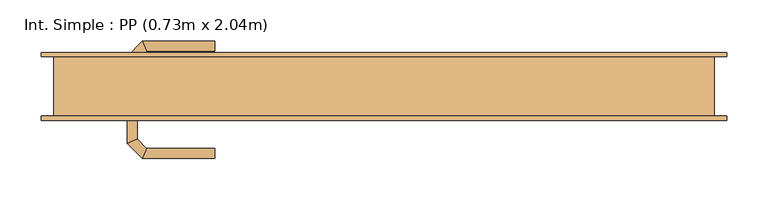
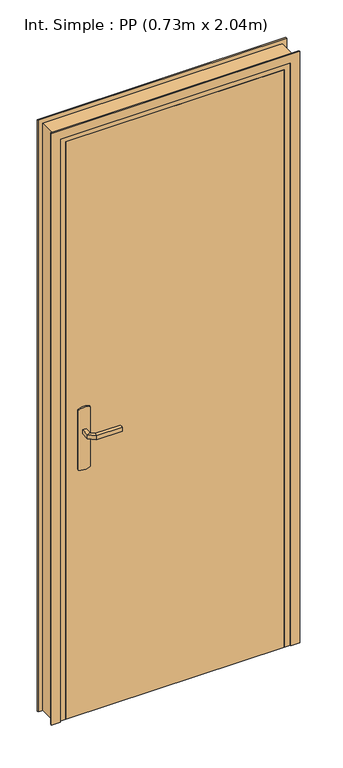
"""IFC4 building model written with IfcOpenShell, lengths in millimetres: door geometry, Int. Simple : PP (0.73m x 2.04m)."""

from ifc_helpers import new_model, si_unit, point, frame, frame_2d, origin, origin_with_axes, place, context, project, spatial, polyline, circle_curve, ellipse_curve, trimmed, segment, composite_curve, outline, extrude, faceted_brep, source, transform, mapped, element, save
from ifc_brep_helpers import plane_surface, cylinder_surface, advanced_brep


def int_simple_pp_0_73m_x_2_04m_359deddd(model_context):
    return source(origin(), model_context, "Body", "SolidModel", [
        extrude(outline(composite_curve([segment(trimmed(circle_curve(frame_2d((904.6410162, -340.0)), 40.0), [point((870.0, -360.0))], [point((870.0, -320.0))], False, "CARTESIAN"), True, "CONTINUOUS"), segment(polyline([(870.0, -320.0), (1080.0, -320.0)]), True, "CONTINUOUS"), segment(trimmed(circle_curve(frame_2d((1045.3589838, -340.0)), 40.0), [point((1080.0, -320.0))], [point((1080.0, -360.0))], False, "CARTESIAN"), True, "CONTINUOUS"), segment(polyline([(1080.0, -360.0), (870.0, -360.0)]), True, "CONTINUOUS")], self_intersect=False)), frame((0.0, -41.0, 0.0), z_axis=(0.0, 1.0, 0.0), x_axis=(0.0, 0.0, 1.0)), (0.0, 0.0, 1.0), 5.0),
        extrude(outline(composite_curve([segment(trimmed(circle_curve(frame_2d((1045.3589838, -340.0)), 40.0), [point((1080.0, -320.0))], [point((1080.0, -360.0))], False, "CARTESIAN"), True, "CONTINUOUS"), segment(polyline([(1080.0, -360.0), (870.0, -360.0)]), True, "CONTINUOUS"), segment(trimmed(circle_curve(frame_2d((904.6410162, -340.0)), 40.0), [point((870.0, -360.0))], [point((870.0, -320.0))], False, "CARTESIAN"), True, "CONTINUOUS"), segment(polyline([(870.0, -320.0), (1080.0, -320.0)]), True, "CONTINUOUS")], self_intersect=False)), frame((0.0, 4.0, 0.0), z_axis=(0.0, 1.0, 0.0), x_axis=(0.0, 0.0, 1.0)), (0.0, 0.0, 1.0), 5.0),
        advanced_brep(
        [(-346.0, -41.0, 1007.0), (-334.0, -41.0, 1007.0), (-334.0, -41.0, 993.0), (-346.0, -41.0, 993.0), (-346.0, -68.6509507, 1007.0), (-334.0, -63.680388, 1007.0), (-334.0, -63.680388, 993.0), (-346.0, -68.6509507, 993.0), (-327.62279, -87.0281607, 1007.0), (-322.6522273, -75.0281607, 1007.0), (-322.6522273, -75.0281607, 993.0), (-327.62279, -87.0281607, 993.0), (-239.9813594, -87.0281607, 1007.0), (-239.9813594, -87.0281607, 993.0), (-239.9813594, -75.0281607, 993.0), (-239.9813594, -75.0281607, 1007.0)],
        [
            (0, 1, circle_curve(frame((-340.0, -41.0, 986.9542278), z_axis=(0.0, 1.0, 0.0), x_axis=(1.0, 0.0, 0.0)), 20.9244589)),
            (1, 2),
            (2, 3, circle_curve(frame((-340.0, -41.0, 1013.0457722), z_axis=(0.0, 1.0, 0.0), x_axis=(1.0, 0.0, 0.0)), 20.9244589)),
            (3, 0),
            (0, 4),
            (4, 5, ellipse_curve(frame((-340.0, -66.1656693, 986.9542278), z_axis=(-0.3826834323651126, 0.9238795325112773, 0.0), x_axis=(0.9238795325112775, 0.38268343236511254, 0.0)), 22.6484711, 20.9244589)),
            (5, 1),
            (5, 6),
            (6, 2),
            (6, 7, ellipse_curve(frame((-340.0, -66.1656693, 1013.0457722), z_axis=(-0.3826834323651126, 0.9238795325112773, 0.0), x_axis=(0.9238795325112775, 0.38268343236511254, 0.0)), 22.6484711, 20.9244589)),
            (7, 3),
            (7, 4),
            (4, 8),
            (8, 9, ellipse_curve(frame((-325.1375086, -81.0281607, 986.9542278), z_axis=(-0.9238795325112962, 0.38268343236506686, 0.0), x_axis=(0.3826834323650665, 0.9238795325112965, 0.0)), 22.6484711, 20.9244589)),
            (9, 5),
            (9, 10),
            (10, 6),
            (10, 11, ellipse_curve(frame((-325.1375086, -81.0281607, 1013.0457722), z_axis=(-0.9238795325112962, 0.38268343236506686, 0.0), x_axis=(0.3826834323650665, 0.9238795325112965, 0.0)), 22.6484711, 20.9244589)),
            (11, 7),
            (11, 8),
            (12, 13),
            (13, 14, circle_curve(frame((-239.9813594, -81.0281607, 1013.0457722), z_axis=(1.0, 0.0, 0.0), x_axis=(0.0, 1.0, 0.0)), 20.9244589)),
            (14, 15),
            (15, 12, circle_curve(frame((-239.9813594, -81.0281607, 986.9542278), z_axis=(1.0, 0.0, 0.0), x_axis=(0.0, 1.0, 0.0)), 20.9244589)),
            (8, 12),
            (15, 9),
            (14, 10),
            (13, 11),
        ],
        [
            plane_surface(frame((-349.2195445, -41.0, 1000.0), z_axis=(0.0, 1.0, 0.0), x_axis=(0.0, 0.0, -1.0))),
            cylinder_surface(frame((-340.0, -41.0, 986.9542278), z_axis=(0.0, 1.0, 0.0), x_axis=(1.0, 0.0, 0.0)), 20.9244589),
            plane_surface(frame((-334.0, -41.0, 1007.0), z_axis=(1.0, 0.0, 0.0), x_axis=(0.0, -1.0, 0.0))),
            cylinder_surface(frame((-340.0, -41.0, 1013.0457722), z_axis=(0.0, 1.0, 0.0), x_axis=(1.0, 0.0, 0.0)), 20.9244589),
            plane_surface(frame((-346.0, -41.0, 993.0), z_axis=(-1.0, 0.0, 0.0), x_axis=(0.0, -1.0, 0.0))),
            cylinder_surface(frame((-340.0, -66.1656693, 986.9542278), z_axis=(-0.7071067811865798, 0.7071067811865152, 0.0), x_axis=(0.7071067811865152, 0.7071067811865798, 0.0)), 20.9244589),
            plane_surface(frame((-334.0, -63.680388, 1007.0), z_axis=(0.7071067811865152, 0.7071067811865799, 0.0), x_axis=(0.7071067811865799, -0.7071067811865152, 0.0))),
            cylinder_surface(frame((-340.0, -66.1656693, 1013.0457722), z_axis=(-0.7071067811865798, 0.7071067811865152, 0.0), x_axis=(0.7071067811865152, 0.7071067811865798, 0.0)), 20.9244589),
            plane_surface(frame((-346.0, -68.6509507, 993.0), z_axis=(-0.7071067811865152, -0.7071067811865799, 0.0), x_axis=(0.7071067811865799, -0.7071067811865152, 0.0))),
            plane_surface(frame((-239.9813594, -81.0281607, 990.7804555), z_axis=(1.0, 0.0, 0.0), x_axis=(0.0, 1.0, 0.0))),
            cylinder_surface(frame((-325.1375086, -81.0281607, 986.9542278), z_axis=(-1.0, 0.0, 0.0), x_axis=(0.0, 1.0, 0.0)), 20.9244589),
            plane_surface(frame((-322.6522273, -75.0281607, 1007.0), z_axis=(0.0, 1.0, 0.0), x_axis=(1.0, 0.0, 0.0))),
            cylinder_surface(frame((-325.1375086, -81.0281607, 1013.0457722), z_axis=(-1.0, 0.0, 0.0), x_axis=(0.0, 1.0, 0.0)), 20.9244589),
            plane_surface(frame((-327.62279, -87.0281607, 993.0), z_axis=(0.0, -1.0, 0.0), x_axis=(1.0, 0.0, 0.0))),
        ],
        [
            (0, [[1, 2, 3, 4]]),
            (1, [[-1, 5, 6, 7]]),
            (2, [[-2, -7, 8, 9]]),
            (3, [[-3, -9, 10, 11]]),
            (4, [[-4, -11, 12, -5]]),
            (5, [[-6, 13, 14, 15]]),
            (6, [[-8, -15, 16, 17]]),
            (7, [[-10, -17, 18, 19]]),
            (8, [[-12, -19, 20, -13]]),
            (9, [[21, 22, 23, 24]]),
            (10, [[-14, 25, -24, 26]]),
            (11, [[-16, -26, -23, 27]]),
            (12, [[-18, -27, -22, 28]]),
            (13, [[-20, -28, -21, -25]]),
        ],
    ),
        advanced_brep(
        [(-334.0, 9.0, 993.0), (-334.0, 9.0, 1007.0), (-346.0, 9.0, 1007.0), (-346.0, 9.0, 993.0), (-334.0, 31.4852045, 993.0), (-334.0, 31.4852045, 1007.0), (-346.0, 36.4557673, 1007.0), (-346.0, 36.4557673, 993.0), (-322.5147186, 42.9704859, 993.0), (-322.5147186, 42.9704859, 1007.0), (-327.4852814, 54.9704859, 1007.0), (-327.4852814, 54.9704859, 993.0), (-239.9542163, 42.9704859, 993.0), (-239.9542163, 54.9704859, 993.0), (-239.9542163, 54.9704859, 1007.0), (-239.9542163, 42.9704859, 1007.0)],
        [
            (0, 1),
            (1, 2, circle_curve(frame((-340.0, 9.0, 986.9542278), z_axis=(0.0, -1.0, 0.0), x_axis=(-1.0, 0.0, 0.0)), 20.9244589)),
            (2, 3),
            (3, 0, circle_curve(frame((-340.0, 9.0, 1013.0457722), z_axis=(0.0, -1.0, 0.0), x_axis=(-1.0, 0.0, 0.0)), 20.9244589)),
            (0, 4),
            (4, 5),
            (5, 1),
            (5, 6, ellipse_curve(frame((-340.0, 33.9704859, 986.9542278), z_axis=(-0.3826834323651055, -0.9238795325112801, 0.0), x_axis=(0.9238795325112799, -0.3826834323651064, 0.0)), 22.6484711, 20.9244589)),
            (6, 2),
            (6, 7),
            (7, 3),
            (7, 4, ellipse_curve(frame((-340.0, 33.9704859, 1013.0457722), z_axis=(-0.3826834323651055, -0.9238795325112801, 0.0), x_axis=(0.9238795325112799, -0.3826834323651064, 0.0)), 22.6484711, 20.9244589)),
            (4, 8),
            (8, 9),
            (9, 5),
            (9, 10, ellipse_curve(frame((-325.0, 48.9704859, 986.9542278), z_axis=(-0.9238795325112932, -0.382683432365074, 0.0), x_axis=(0.3826834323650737, -0.9238795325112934, 0.0)), 22.6484711, 20.9244589)),
            (10, 6),
            (10, 11),
            (11, 7),
            (11, 8, ellipse_curve(frame((-325.0, 48.9704859, 1013.0457722), z_axis=(-0.9238795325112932, -0.382683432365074, 0.0), x_axis=(0.3826834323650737, -0.9238795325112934, 0.0)), 22.6484711, 20.9244589)),
            (12, 13, circle_curve(frame((-239.9542163, 48.9704859, 1013.0457722), z_axis=(1.0, 0.0, 0.0), x_axis=(0.0, 1.0, 0.0)), 20.9244589)),
            (13, 14),
            (14, 15, circle_curve(frame((-239.9542163, 48.9704859, 986.9542278), z_axis=(1.0, 0.0, 0.0), x_axis=(0.0, 1.0, 0.0)), 20.9244589)),
            (15, 12),
            (8, 12),
            (15, 9),
            (14, 10),
            (13, 11),
        ],
        [
            plane_surface(frame((-349.2195445, 9.0, 1000.0), z_axis=(0.0, -1.0, 0.0), x_axis=(0.0, 0.0, 1.0))),
            plane_surface(frame((-334.0, 9.0, 993.0), z_axis=(1.0, 0.0, 0.0), x_axis=(0.0, 1.0, 0.0))),
            cylinder_surface(frame((-340.0, 9.0, 986.9542278), z_axis=(0.0, -1.0, 0.0), x_axis=(-1.0, 0.0, 0.0)), 20.9244589),
            plane_surface(frame((-346.0, 9.0, 1007.0), z_axis=(-1.0, 0.0, 0.0), x_axis=(0.0, 1.0, 0.0))),
            cylinder_surface(frame((-340.0, 9.0, 1013.0457722), z_axis=(0.0, -1.0, 0.0), x_axis=(-1.0, 0.0, 0.0)), 20.9244589),
            plane_surface(frame((-334.0, 31.4852045, 993.0), z_axis=(0.7071067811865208, -0.7071067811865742, 0.0), x_axis=(0.7071067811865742, 0.7071067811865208, 0.0))),
            cylinder_surface(frame((-340.0, 33.9704859, 986.9542278), z_axis=(-0.7071067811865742, -0.7071067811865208, 0.0), x_axis=(-0.7071067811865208, 0.7071067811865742, 0.0)), 20.9244589),
            plane_surface(frame((-346.0, 36.4557673, 1007.0), z_axis=(-0.7071067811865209, 0.7071067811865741, 0.0), x_axis=(0.7071067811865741, 0.7071067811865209, 0.0))),
            cylinder_surface(frame((-340.0, 33.9704859, 1013.0457722), z_axis=(-0.7071067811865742, -0.7071067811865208, 0.0), x_axis=(-0.7071067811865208, 0.7071067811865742, 0.0)), 20.9244589),
            plane_surface(frame((-239.9542163, 48.9704859, 990.7804555), z_axis=(1.0, 0.0, 0.0), x_axis=(0.0, 1.0, 0.0))),
            plane_surface(frame((-322.5147186, 42.9704859, 993.0), z_axis=(0.0, -1.0, 0.0), x_axis=(1.0, 0.0, 0.0))),
            cylinder_surface(frame((-325.0, 48.9704859, 986.9542278), z_axis=(-1.0, 0.0, 0.0), x_axis=(0.0, 1.0, 0.0)), 20.9244589),
            plane_surface(frame((-327.4852814, 54.9704859, 1007.0), z_axis=(0.0, 1.0, 0.0), x_axis=(1.0, 0.0, 0.0))),
            cylinder_surface(frame((-325.0, 48.9704859, 1013.0457722), z_axis=(-1.0, 0.0, 0.0), x_axis=(0.0, 1.0, 0.0)), 20.9244589),
        ],
        [
            (0, [[1, 2, 3, 4]]),
            (1, [[-1, 5, 6, 7]]),
            (2, [[-2, -7, 8, 9]]),
            (3, [[-3, -9, 10, 11]]),
            (4, [[-4, -11, 12, -5]]),
            (5, [[-6, 13, 14, 15]]),
            (6, [[-8, -15, 16, 17]]),
            (7, [[-10, -17, 18, 19]]),
            (8, [[-12, -19, 20, -13]]),
            (9, [[21, 22, 23, 24]]),
            (10, [[-14, 25, -24, 26]]),
            (11, [[-16, -26, -23, 27]]),
            (12, [[-18, -27, -22, 28]]),
            (13, [[-20, -28, -21, -25]]),
        ],
    ),
        extrude(outline(polyline([(-400.0, 4.0), (330.0, 4.0), (330.0, -36.0), (-400.0, -36.0), (-400.0, 4.0)])), origin_with_axes(), (0.0, 0.0, 1.0), 2040.0),
        faceted_brep([(-435.0, -36.0, 0.0), (-435.0, 36.0, 0.0), (-385.0, 36.0, 0.0), (-385.0, 4.0, 0.0), (-400.0, 4.0, 0.0), (-400.0, -36.0, 0.0), (-435.0, -36.0, 2075.0), (-435.0, 36.0, 2075.0), (365.0, 36.0, 2075.0), (365.0, 36.0, 0.0), (315.0, 36.0, 0.0), (315.0, 36.0, 2025.0), (-385.0, 36.0, 2025.0), (-385.0, 4.0, 2025.0), (315.0, 4.0, 2025.0), (315.0, 4.0, 0.0), (330.0, 4.0, 0.0), (330.0, 4.0, 2040.0), (-400.0, 4.0, 2040.0), (-400.0, -36.0, 2040.0), (330.0, -36.0, 2040.0), (330.0, -36.0, 0.0), (365.0, -36.0, 0.0), (365.0, -36.0, 2075.0)], [[[0, 1, 2, 3, 4, 5]], [[1, 0, 6, 7]], [[2, 1, 7, 8, 9, 10, 11, 12]], [[3, 2, 12, 13]], [[4, 3, 13, 14, 15, 16, 17, 18]], [[5, 4, 18, 19]], [[0, 5, 19, 20, 21, 22, 23, 6]], [[8, 23, 22, 9]], [[22, 21, 16, 15, 10, 9]], [[14, 11, 10, 15]], [[20, 17, 16, 21]], [[7, 6, 23, 8]], [[13, 12, 11, 14]], [[19, 18, 17, 20]]]),
        extrude(outline(polyline([(0.0, -450.0), (0.0, -420.0), (2060.0, -420.0), (2060.0, 350.0), (0.0, 350.0), (0.0, 380.0), (2090.0, 380.0), (2090.0, -450.0), (0.0, -450.0)])), frame((0.0, -41.0, 0.0), z_axis=(0.0, 1.0, 0.0), x_axis=(0.0, 0.0, 1.0)), (0.0, 0.0, 1.0), 5.0),
        extrude(outline(polyline([(0.0, -450.0), (0.0, -420.0), (2060.0, -420.0), (2060.0, 350.0), (0.0, 350.0), (0.0, 380.0), (2090.0, 380.0), (2090.0, -450.0), (0.0, -450.0)])), frame((0.0, 36.0, 0.0), z_axis=(0.0, 1.0, 0.0), x_axis=(0.0, 0.0, 1.0)), (0.0, 0.0, 1.0), 5.0),
    ])


if __name__ == "__main__":
    model = new_model("IFC4")
    model_context = context("Model", 3, world=origin())
    ifc_project = project(units=[si_unit("LENGTHUNIT", "METRE", prefix="MILLI")], contexts=[model_context])
    site = spatial("IfcSite", under=ifc_project)
    building = spatial("IfcBuilding", under=site)
    placement = place(None, origin())
    int_simple_pp_0_73m_x_2_04m_shape = int_simple_pp_0_73m_x_2_04m_359deddd(model_context)
    element("IfcDoor", 1, ObjectType="Int. Simple : PP (0.73m x 2.04m)", at=placement, inside=building, context=model_context, shape_type="MappedRepresentation", body=[
        mapped(int_simple_pp_0_73m_x_2_04m_shape, transform((0.0, 0.0, 0.0), x_axis=(1.0, 0.0, 0.0), y_axis=(0.0, 1.0, 0.0), z_axis=(0.0, 0.0, 1.0))),
    ])
    save(model, "model.ifc")
